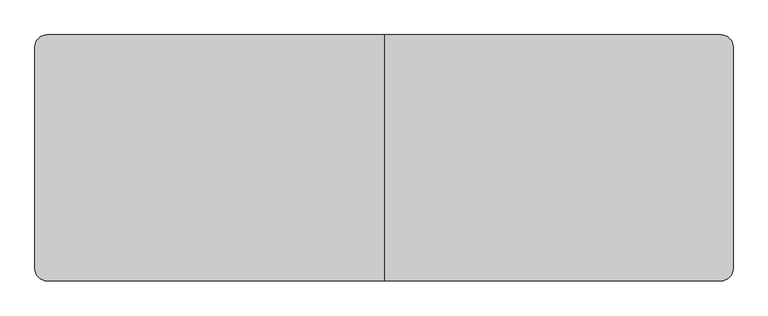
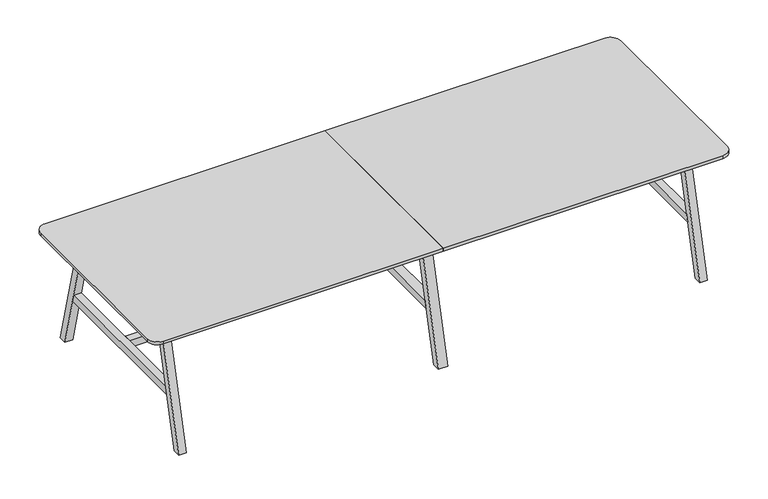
"""IFC4 building model written with IfcOpenShell, lengths in millimetres: furniture geometry, BDG_BossDesign_Tbls_AgentTables6Legs : AGE-DT-6L-3400-1200-3D."""

from ifc_helpers import new_model, si_unit, point, frame, frame_2d, origin, place, context, project, spatial, polyline, circle_curve, trimmed, segment, composite_curve, outline, extrude, source, transform, mapped, element, save


def furniture_eb29a019(model_context):
    return source(origin(), model_context, "Body", "SweptSolid", [
        extrude(outline(polyline([(600.0, 0.0), (554.9999949, 0.0), (385.5, 660.0), (430.5000051, 660.0), (600.0, 0.0)])), frame((-27.5, 0.0, 0.0), z_axis=(1.0, 0.0, 0.0), x_axis=(0.0, 1.0, 0.0)), (0.0, 0.0, 1.0), 55.0),
        extrude(outline(polyline([(-600.0, 0.0), (-430.5000051, 660.0), (-385.5, 660.0), (-554.9999949, 0.0), (-600.0, 0.0)])), frame((-27.5, 0.0, 0.0), z_axis=(1.0, 0.0, 0.0), x_axis=(0.0, 1.0, 0.0)), (0.0, 0.0, 1.0), 55.0),
        extrude(outline(polyline([(477.9545427, 300.0), (-477.9545427, 300.0), (-466.3977249, 345.0), (466.3977249, 345.0), (477.9545427, 300.0)])), frame((-27.5, 0.0, 0.0), z_axis=(1.0, 0.0, 0.0), x_axis=(0.0, 1.0, 0.0)), (0.0, 0.0, 1.0), 55.0),
        extrude(outline(composite_curve([segment(polyline([(0.0, 600.0), (0.0, -600.0), (-1640.0, -600.0)]), True, "CONTINUOUS"), segment(trimmed(circle_curve(frame_2d((-1640.0, -540.0)), 60.0), [point((-1640.0, -600.0))], [point((-1700.0, -540.0))], False, "CARTESIAN"), True, "CONTINUOUS"), segment(polyline([(-1700.0, -540.0), (-1700.0, 540.0)]), True, "CONTINUOUS"), segment(trimmed(circle_curve(frame_2d((-1640.0, 540.0)), 60.0), [point((-1700.0, 540.0))], [point((-1640.0, 600.0))], False, "CARTESIAN"), True, "CONTINUOUS"), segment(polyline([(-1640.0, 600.0), (0.0, 600.0)]), True, "CONTINUOUS")], self_intersect=False)), frame((0.0, 0.0, 722.0), z_axis=(0.0, 0.0, 1.0), x_axis=(1.0, 0.0, 0.0)), (0.0, 0.0, 1.0), 18.0),
        extrude(outline(polyline([(-466.3977249, 345.0), (466.3977249, 345.0), (477.9545427, 300.0), (-477.9545427, 300.0), (-466.3977249, 345.0)])), frame((1505.0, 0.0, 0.0), z_axis=(1.0, 0.0, 0.0), x_axis=(0.0, 1.0, 0.0)), (0.0, 0.0, 1.0), 45.0),
        extrude(outline(polyline([(600.0, 0.0), (554.9999949, 0.0), (385.5, 660.0), (430.5000051, 660.0), (600.0, 0.0)])), frame((-1550.0, 0.0, 0.0), z_axis=(1.0, 0.0, 0.0), x_axis=(0.0, 1.0, 0.0)), (0.0, 0.0, 1.0), 45.0),
        extrude(outline(polyline([(-600.0, 0.0), (-430.5000051, 660.0), (-385.5, 660.0), (-554.9999949, 0.0), (-600.0, 0.0)])), frame((-1550.0, 0.0, 0.0), z_axis=(1.0, 0.0, 0.0), x_axis=(0.0, 1.0, 0.0)), (0.0, 0.0, 1.0), 45.0),
        extrude(outline(polyline([(-466.3977249, 345.0), (466.3977249, 345.0), (477.9545427, 300.0), (-477.9545427, 300.0), (-466.3977249, 345.0)])), frame((-1550.0, 0.0, 0.0), z_axis=(1.0, 0.0, 0.0), x_axis=(0.0, 1.0, 0.0)), (0.0, 0.0, 1.0), 45.0),
        extrude(outline(polyline([(-426.6006165, 634.973938), (-404.2770691, 722.0), (-379.5, 722.0), (-401.8235474, 634.973938), (-426.6006165, 634.973938)])), frame((-1505.0, 0.0, 0.0), z_axis=(1.0, 0.0, 0.0), x_axis=(0.0, 1.0, 0.0)), (0.0, 0.0, 1.0), 3010.0),
        extrude(outline(polyline([(426.6006165, 634.973938), (401.8235474, 634.973938), (379.5, 722.0), (404.2770691, 722.0), (426.6006165, 634.973938)])), frame((-1505.0, 0.0, 0.0), z_axis=(1.0, 0.0, 0.0), x_axis=(0.0, 1.0, 0.0)), (0.0, 0.0, 1.0), 3010.0),
        extrude(outline(polyline([(599.7999878, 0.0), (554.7999827, 0.0), (385.5, 660.0), (430.5000051, 660.0), (599.7999878, 0.0)])), frame((1505.0, 0.0, 0.0), z_axis=(1.0, 0.0, 0.0), x_axis=(0.0, 1.0, 0.0)), (0.0, 0.0, 1.0), 45.0),
        extrude(outline(polyline([(-599.7999878, 0.0), (-430.5000051, 660.0), (-385.5, 660.0), (-554.7999827, 0.0), (-599.7999878, 0.0)])), frame((1505.0, 0.0, 0.0), z_axis=(1.0, 0.0, 0.0), x_axis=(0.0, 1.0, 0.0)), (0.0, 0.0, 1.0), 45.0),
        extrude(outline(polyline([(-27.5, 22.5000305), (-27.5, -22.5000305), (-1505.0, -22.5000305), (-1505.0, 22.5000305), (-27.5, 22.5000305)])), frame((0.0, 0.0, 300.0), z_axis=(0.0, 0.0, 1.0), x_axis=(1.0, 0.0, 0.0)), (0.0, 0.0, 1.0), 45.0),
        extrude(outline(polyline([(27.5, -22.5000305), (27.5, 22.5000305), (1505.0, 22.5000305), (1505.0, -22.5000305), (27.5, -22.5000305)])), frame((0.0, 0.0, 300.0), z_axis=(0.0, 0.0, 1.0), x_axis=(1.0, 0.0, 0.0)), (0.0, 0.0, 1.0), 45.0),
        extrude(outline(composite_curve([segment(trimmed(circle_curve(frame_2d((1640.0, 540.0)), 60.0), [point((1640.0, 600.0))], [point((1700.0, 540.0))], False, "CARTESIAN"), True, "CONTINUOUS"), segment(polyline([(1700.0, 540.0), (1700.0, -540.0)]), True, "CONTINUOUS"), segment(trimmed(circle_curve(frame_2d((1640.0, -540.0)), 60.0), [point((1700.0, -540.0))], [point((1640.0, -600.0))], False, "CARTESIAN"), True, "CONTINUOUS"), segment(polyline([(1640.0, -600.0), (0.0, -600.0), (0.0, 600.0), (1640.0, 600.0)]), True, "CONTINUOUS")], self_intersect=False)), frame((0.0, 0.0, 722.0), z_axis=(0.0, 0.0, 1.0), x_axis=(1.0, 0.0, 0.0)), (0.0, 0.0, 1.0), 18.0),
    ])


if __name__ == "__main__":
    model = new_model("IFC4")
    model_context = context("Model", 3, world=origin())
    ifc_project = project(units=[si_unit("LENGTHUNIT", "METRE", prefix="MILLI")], contexts=[model_context])
    site = spatial("IfcSite", under=ifc_project)
    building = spatial("IfcBuilding", under=site)
    placement = place(None, origin())
    furniture_shape = furniture_eb29a019(model_context)
    element("IfcFurniture", 1, ObjectType="BDG_BossDesign_Tbls_AgentTables6Legs : AGE-DT-6L-3400-1200-3D", at=placement, inside=building, context=model_context, shape_type="MappedRepresentation", body=[
        mapped(furniture_shape, transform((0.0, 0.0, 0.0), x_axis=(1.0, 0.0, 0.0), y_axis=(0.0, 1.0, 0.0), z_axis=(0.0, 0.0, 1.0))),
    ])
    save(model, "model.ifc")
